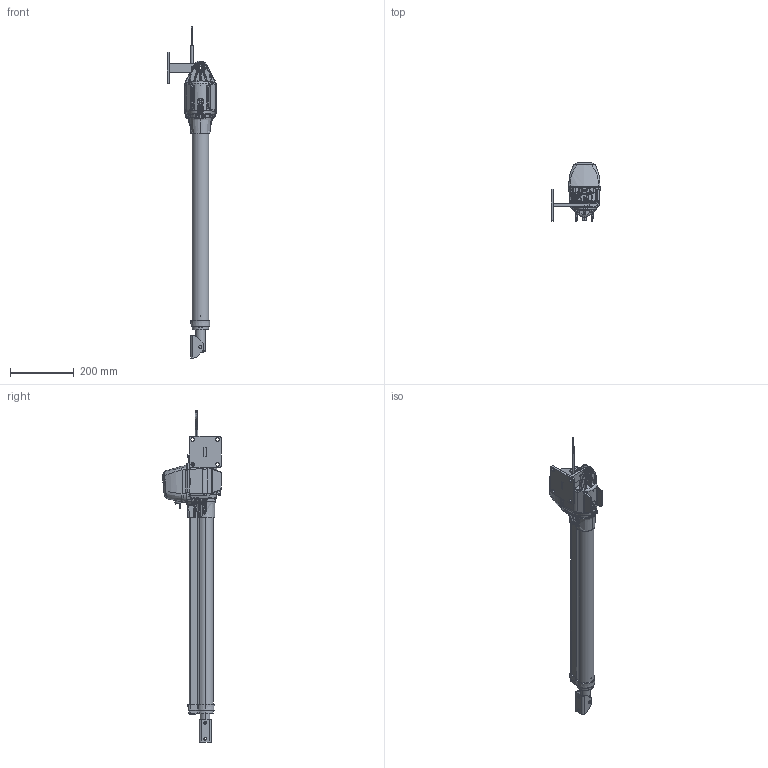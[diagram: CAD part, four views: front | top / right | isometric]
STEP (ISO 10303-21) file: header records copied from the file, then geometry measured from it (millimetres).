
FILE_DESCRIPTION (( 'STEP AP214' ), '1' );
FILE_NAME ('twist ML Kunde.STEP', '2023-06-19T11:44:06', ( '' ), ( '' ), 'SwSTEP 2.0', 'SolidWorks 2021', '' );
FILE_SCHEMA (( 'AUTOMOTIVE_DESIGN' ));
Length unit declared in the file: millimetre
Products named in the file (5): twist ML 1 Kunde; S11179-00001_Torflügelbeschlag_twist_200; twist ML 2 Kunde; 2251V000_Torpfostenbeschlag; twist ML  Kunde
Assembly tree (4 placements, depth 2):
  twist ML  Kunde
    twist ML 1 Kunde
    twist ML 2 Kunde
    S11179-00001_Torflügelbeschlag_twist_200
    2251V000_Torpfostenbeschlag
Bounding box: 155.39 x 184.47 x 1041.63 mm (x, y, z)
Volume: 3686950.8 mm3; surface area: 495949.9 mm2
Topology: 6 solids, 6 shells, 3617 faces, 9115 edges, 5519 vertices
Faces by surface type: bspline 1679, cylinder 845, plane 772, cone 303, torus 16, sphere 2
Entity records: 183202 total; most frequent: CARTESIAN_POINT 109187, ORIENTED_EDGE 18090, DIRECTION 11095, EDGE_CURVE 9045, VERTEX_POINT 5518, AXIS2_PLACEMENT_3D 4227, B_SPLINE_CURVE_WITH_KNOTS 3896, EDGE_LOOP 3745
